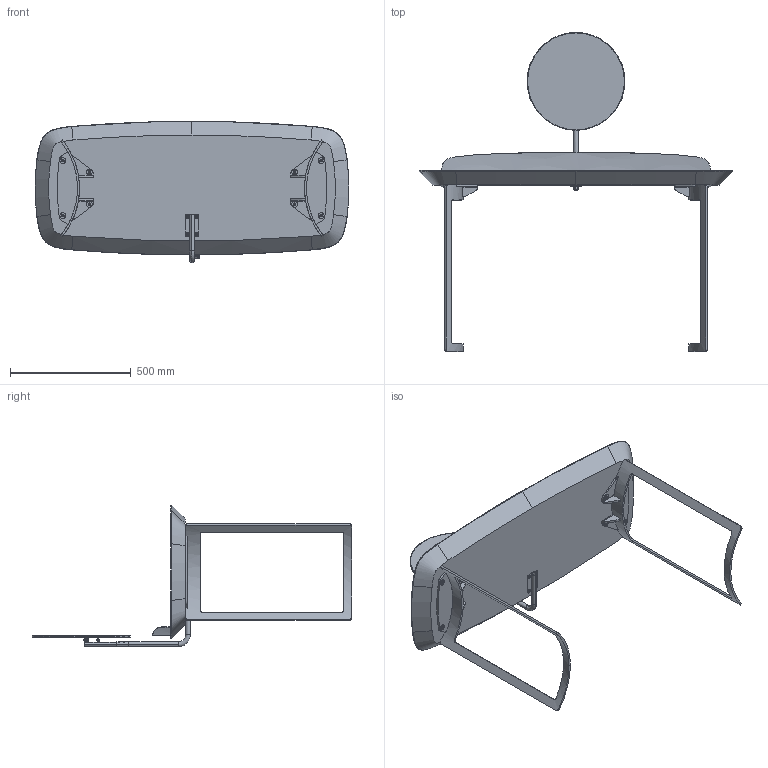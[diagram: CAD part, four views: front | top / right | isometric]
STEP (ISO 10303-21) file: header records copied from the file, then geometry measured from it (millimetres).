
FILE_DESCRIPTION (( 'STEP AP203' ), '1' );
FILE_NAME ('IC02W_Icon Vanity_130x59x75h.STEP', '2024-08-06T07:13:01', ( '' ), ( '' ), 'SwSTEP 2.0', 'SolidWorks 2022', '' );
FILE_SCHEMA (( 'CONFIG_CONTROL_DESIGN' ));
Length unit declared in the file: millimetre
Products named in the file (23): M6xXXmm_M6x12; SCR000000GXX-00-PIASTRA DI FISSAGGIO SUPERIORE; SCR000000X_08-00-BOCCOLA FISSAGGIO TUBO; M6xXXmm_M6x35mm; M5xXXmm_M5X10mm; SCR000000GXX-00-SCRIVANIE GAMBA_GAMBA H.69cm PER  ICON; SCR000000X-03-SCRIVANIE STRUTTURA PER SPECCHIO TONDO_SCR000000A SPECCHIO PER LYRA; rondella M6_6X12; SCR000000X_01-00-CALOTTA SPECCHIO COMPLETA; SCR000000X_04-00-BASE TELESCOPICA; ICO000000PNO-02-ICON SCRIVANIA_default; SCR000000Y_03-03-TUBOLARE TELESCOPICO BASE_SCR000000B STRUTTURA TUBOLARE PER AURI; SCR000000SPC-00- SCRIVANIE SPECCHIO TONDO; SCR000000G69-02-GAMBA H.69cm PER ICON E LIRA_GAMBA 69; nut_M6_M6; SCR000000X_03-00-BOCCOLA FISSAGGIO SPECCHIO; IC02W_Icon Vanity_130x59x75h; SCR000000Y_09-00-TUBOLARE TELESCOPICO INTERNO; SCR000000X_05-00-PIASTRINA ANCORAGGIO PIANO; SCR000000X_02-00-CALOTTA SPECCHIO Ø40; rondella M8X24; SCRC000V05-00-LYRA_ICON CORNICE TOP VERNICIATA V05 BRONZO GOFFRATO.SLDDRW_piegata; SCR000000X_10-00-TUBO INTERNO PER SPECCHIO
Assembly tree (37 placements, depth 4):
  IC02W_Icon Vanity_130x59x75h
    ICO000000PNO-02-ICON SCRIVANIA_default
    SCR000000X-03-SCRIVANIE STRUTTURA PER SPECCHIO TONDO_SCR000000A SPECCHIO PER LYRA
      SCR000000X_01-00-CALOTTA SPECCHIO COMPLETA
        SCR000000X_02-00-CALOTTA SPECCHIO Ø40
        SCR000000X_03-00-BOCCOLA FISSAGGIO SPECCHIO
      SCR000000X_10-00-TUBO INTERNO PER SPECCHIO
        SCR000000Y_09-00-TUBOLARE TELESCOPICO INTERNO
        SCR000000X_08-00-BOCCOLA FISSAGGIO TUBO
      SCR000000X_04-00-BASE TELESCOPICA
        SCR000000Y_03-03-TUBOLARE TELESCOPICO BASE_SCR000000B STRUTTURA TUBOLARE PER AURI
        SCR000000X_05-00-PIASTRINA ANCORAGGIO PIANO
    SCR000000G69-02-GAMBA H.69cm PER ICON E LIRA_GAMBA 69  x2
      SCR000000GXX-00-SCRIVANIE GAMBA_GAMBA H.69cm PER  ICON
      SCR000000GXX-00-PIASTRA DI FISSAGGIO SUPERIORE
    rondella M8X24  x8
    M6xXXmm_M6x12  x4
    rondella M6_6X12  x4
    M5xXXmm_M5X10mm  x2
    nut_M6_M6
    M6xXXmm_M6x35mm
    SCRC000V05-00-LYRA_ICON CORNICE TOP VERNICIATA V05 BRONZO GOFFRATO.SLDDRW_piegata
    SCR000000SPC-00- SCRIVANIE SPECCHIO TONDO
Bounding box: 1300.29 x 1323 x 586 mm (x, y, z)
Volume: 37815105.5 mm3; surface area: 2776536.5 mm2
Topology: 34 solids, 34 shells, 893 faces, 2109 edges, 1269 vertices
Faces by surface type: cylinder 309, plane 287, torus 142, cone 124, bspline 31
Entity records: 23091 total; most frequent: CARTESIAN_POINT 8485, ORIENTED_EDGE 2454, DIRECTION 2422, EDGE_CURVE 1227, AXIS2_PLACEMENT_3D 984, VERTEX_POINT 765, EDGE_LOOP 588, ADVANCED_FACE 517
